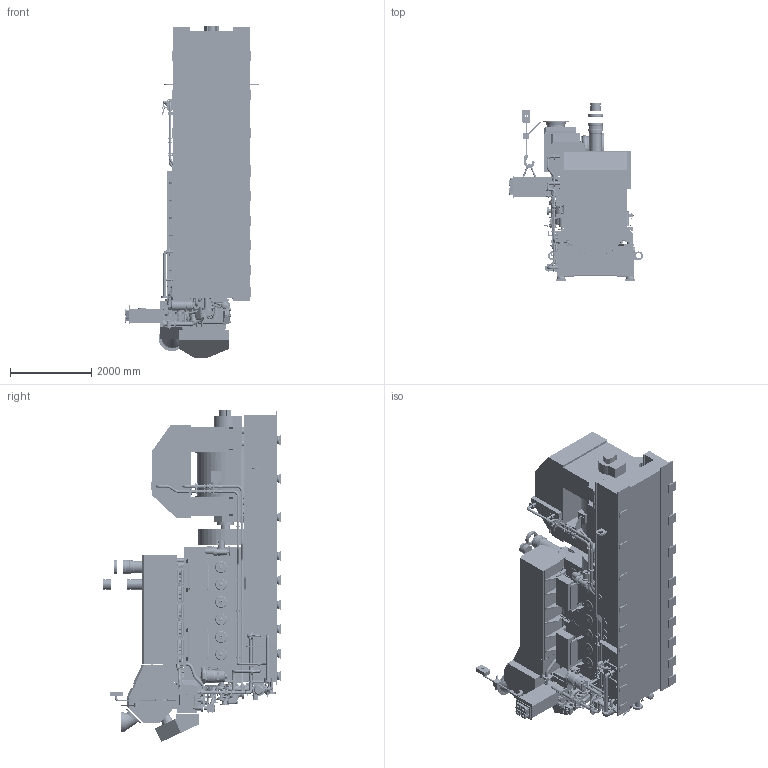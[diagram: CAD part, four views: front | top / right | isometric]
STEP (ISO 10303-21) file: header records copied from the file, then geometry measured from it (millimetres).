
FILE_DESCRIPTION((''),'2;1');
FILE_NAME('6M25E_GENSET_STP_ASM','2015-11-16T',('frickbd'),('Caterpillar Motoren GmbH & Co.KG'),'PRO/ENGINEER BY PARAMETRIC TECHNOLOGY CORPORATION, 2014200','PRO/ENGINEER BY PARAMETRIC TECHNOLOGY CORPORATION, 2014200','');
FILE_SCHEMA(('CONFIG_CONTROL_DESIGN'));
Products named in the file (7): 6M25E_GENSET_STP_REM_SPAC_P01; 6M25E_GENSET_STP_RESIL_MO_P01; 6M25E_GENSET_STP_ENGINE_P03; 6M25E_GENSET_STP_COMPLETE_P03; 6M25E_GENSET_STP_WITH_GEN_P03; 6M25E_GENSET_STP_STD_P03; 6M25E_GENSET_STP_ASM
Assembly tree (6 placements, depth 2):
  6M25E_GENSET_STP_ASM
    6M25E_GENSET_STP_REM_SPAC_P01
    6M25E_GENSET_STP_RESIL_MO_P01
    6M25E_GENSET_STP_ENGINE_P03
    6M25E_GENSET_STP_COMPLETE_P03
    6M25E_GENSET_STP_WITH_GEN_P03
    6M25E_GENSET_STP_STD_P03
Bounding box: 3298.28 x 4359 x 8159.95 mm (x, y, z)
Surface area: 298645305.3 mm2 (no closed solid volume)
Topology: 0 solids, 1472 shells, 8606 faces, 37329 edges, 29461 vertices
Faces by surface type: plane 4162, cylinder 3328, torus 526, bspline 366, cone 202, sphere 15, extrusion 5, revolution 2
Entity records: 512795 total; most frequent: CARTESIAN_POINT 163268, DIRECTION 65051, ORIENTED_EDGE 52351, EDGE_CURVE 37309, VERTEX_POINT 29463, AXIS2_PLACEMENT_3D 23482, VECTOR 18085, LINE 18080
